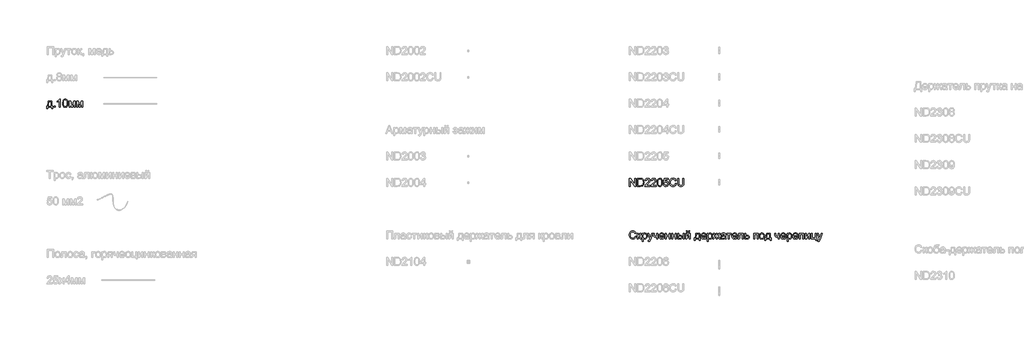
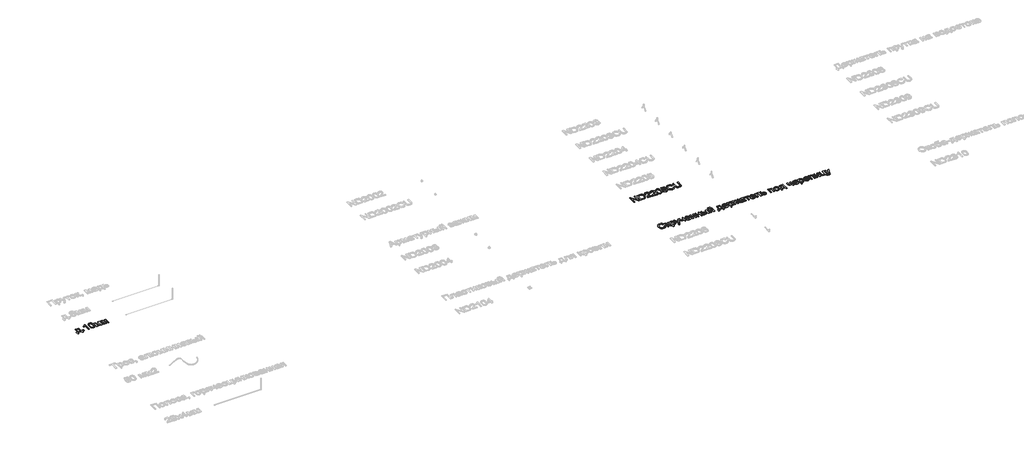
# One storey, part 93 of 124: 3 proxies.
"""IFC4 building model written with IfcOpenShell, lengths in millimetres."""

from ifc_helpers import new_model, si_unit, origin, origin_with_axes, place, context, project, spatial, polyline, outline, extrude, element, save

model = new_model("IFC4")

# Units and contexts
model_context = context("Model", 3, world=origin())
ifc_project = project(units=[si_unit("LENGTHUNIT", "METRE", prefix="MILLI")], contexts=[model_context])

# Site, building, storey
site = spatial("IfcSite", under=ifc_project)
building = spatial("IfcBuilding", under=site)
storey = spatial("IfcBuildingStorey", under=building, Name="Этаж 01", Elevation=0.0)

# Proxies
placement = place(None, origin())
element("IfcBuildingElementProxy", 1, Name="300", ObjectType="300", at=placement, inside=storey, context=model_context, shape_type="SweptSolid", body=[
    extrude(outline(polyline([(1328.0754049, -13298.196295), (1469.3420911, -13298.196295), (1469.3420911, -13481.842987), (1497.5954283, -13481.842987), (1497.5954283, -13580.7296673), (1459.924312, -13580.7296673), (1459.924312, -13519.5141033), (1304.5309572, -13519.5141033), (1304.5309572, -13580.7296673), (1266.8598409, -13580.7296673), (1266.8598409, -13481.842987), (1290.4042886, -13481.842987), (1307.5199984, -13450.9133082), (1319.5037544, -13409.9956333), (1326.3555566, -13359.0899622), (1328.0754049, -13298.196295)]), holes=[polyline([(1361.0376317, -13335.8674113), (1357.9474229, -13381.9906164), (1352.2084638, -13421.6942807), (1343.8207543, -13454.9784043), (1332.7842945, -13481.842987), (1431.6709748, -13481.842987), (1431.6709748, -13335.8674113), (1361.0376317, -13335.8674113)])]), origin_with_axes(), (0.0, 0.0, 1.0), 20.0),
    extrude(outline(polyline([(1549.3932132, -13519.5141033), (1549.3932132, -13481.842987), (1587.0643295, -13481.842987), (1587.0643295, -13519.5141033), (1549.3932132, -13519.5141033)])), origin_with_axes(), (0.0, 0.0, 1.0), 20.0),
    extrude(outline(polyline([(1789.5465797, -13519.5141033), (1751.8754634, -13519.5141033), (1751.8754634, -13284.6582375), (1716.1909098, -13310.0788834), (1676.5332308, -13329.0983826), (1676.5332308, -13293.4874054), (1706.1201402, -13277.3925681), (1731.7523182, -13258.2443103), (1751.9582368, -13237.8820419), (1765.266368, -13218.1451728), (1789.5465797, -13218.1451728), (1789.5465797, -13519.5141033)])), origin_with_axes(), (0.0, 0.0, 1.0), 20.0),
    extrude(outline(polyline([(1879.0154809, -13371.2576592), (1881.7837929, -13323.0191326), (1890.088729, -13284.5478729), (1903.8475156, -13255.2552691), (1922.9773793, -13234.5527098), (1947.616276, -13222.2470571), (1977.9021612, -13218.1451728), (2001.1155151, -13220.573194), (2021.9008478, -13227.8572575), (2039.2832721, -13239.7122548), (2052.2879006, -13255.8530773), (2062.1103499, -13276.1417694), (2069.9462364, -13300.4403751), (2075.0781902, -13331.2964775), (2076.7888415, -13371.2576592), (2074.0481206, -13419.2202743), (2065.8259581, -13457.5995635), (2052.1499449, -13486.9197585), (2033.0476723, -13507.7050912), (2008.3535934, -13520.0935174), (1977.9021612, -13524.2229928), (1957.1536167, -13522.4295681), (1938.7595169, -13517.0492939), (1922.7198619, -13508.0821703), (1909.0346517, -13495.5281972), (1895.9012645, -13472.8344766), (1886.5202736, -13444.5581467), (1880.8916791, -13410.6992076), (1879.0154809, -13371.2576592)]), holes=[polyline([(1916.6865972, -13371.1840828), (1921.1011811, -13430.4406752), (1926.6194111, -13450.7086739), (1934.344933, -13464.7364742), (1954.0634079, -13481.0980259), (1977.9021612, -13486.5518765), (2001.7409145, -13481.0796318), (2021.4593894, -13464.6628978), (2029.1849113, -13450.6121048), (2034.7031413, -13430.3487047), (2039.1177252, -13371.1840828), (2034.8502941, -13313.2610627), (2029.5160051, -13293.0597426), (2022.0480006, -13278.6985492), (2002.3663139, -13261.5368541), (1977.4607028, -13255.8162891), (1953.8794669, -13260.8562725), (1934.9335442, -13275.9762225), (1926.9505049, -13291.6112072), (1921.2483339, -13312.6908456), (1916.6865972, -13371.1840828)])]), origin_with_axes(), (0.0, 0.0, 1.0), 20.0),
    extrude(outline(polyline([(2119.1688474, -13298.196295), (2183.9896549, -13298.196295), (2233.9480298, -13475.3682638), (2287.8059539, -13298.196295), (2349.9044347, -13298.196295), (2349.9044347, -13519.5141033), (2312.2333184, -13519.5141033), (2312.2333184, -13341.3120648), (2258.0810887, -13519.5141033), (2208.6377486, -13519.5141033), (2156.8399637, -13332.7772025), (2156.8399637, -13519.5141033), (2119.1688474, -13519.5141033), (2119.1688474, -13298.196295)])), origin_with_axes(), (0.0, 0.0, 1.0), 20.0),
    extrude(outline(polyline([(2406.4111092, -13298.196295), (2471.2319167, -13298.196295), (2521.1902917, -13475.3682638), (2575.0482158, -13298.196295), (2637.1466966, -13298.196295), (2637.1466966, -13519.5141033), (2599.4755803, -13519.5141033), (2599.4755803, -13341.3120648), (2545.3233506, -13519.5141033), (2495.8800104, -13519.5141033), (2444.0822255, -13332.7772025), (2444.0822255, -13519.5141033), (2406.4111092, -13519.5141033), (2406.4111092, -13298.196295)])), origin_with_axes(), (0.0, 0.0, 1.0), 20.0),
])
element("IfcBuildingElementProxy", 2, Name="300", ObjectType="300", at=placement, inside=storey, context=model_context, shape_type="SweptSolid", body=[
    extrude(outline(polyline([(23340.1671275, -16519.5141033), (23340.1671275, -16218.1451728), (23380.4869942, -16218.1451728), (23537.9404881, -16456.9005877), (23537.9404881, -16218.1451728), (23575.6116044, -16218.1451728), (23575.6116044, -16519.5141033), (23535.2917378, -16519.5141033), (23377.8382438, -16280.685112), (23377.8382438, -16519.5141033), (23340.1671275, -16519.5141033)])), origin_with_axes(), (0.0, 0.0, 1.0), 20.0),
    extrude(outline(polyline([(23641.536058, -16519.5141033), (23641.536058, -16218.1451728), (23745.4995098, -16218.1451728), (23799.2838575, -16222.4861804), (23823.3065518, -16230.8554957), (23843.5768497, -16244.0440653), (23864.4173648, -16266.9999018), (23879.2614033, -16295.5475446), (23888.1457534, -16329.1351708), (23891.1072035, -16367.2109573), (23889.1022466, -16399.5569817), (23883.087376, -16428.0218511), (23873.9271143, -16452.2560775), (23862.4859843, -16471.9101731), (23849.3158089, -16487.4255962), (23834.968411, -16499.2438053), (23818.4964947, -16508.0085939), (23798.9527637, -16514.3637553), (23750.5027049, -16519.5141033), (23641.536058, -16519.5141033)]), holes=[polyline([(23679.2071743, -16481.842987), (23745.8673918, -16481.842987), (23773.4401473, -16480.4818236), (23794.3542388, -16476.3983334), (23810.1363764, -16469.8316398), (23822.3132704, -16461.020866), (23835.4006724, -16444.7144966), (23845.2323187, -16423.6072671), (23851.3851451, -16397.6072071), (23853.4360872, -16366.6223461), (23849.4169764, -16325.5667154), (23837.359644, -16295.253239), (23819.5449584, -16274.4311181), (23798.2537879, -16261.8495538), (23776.5855384, -16257.3246053), (23744.8373222, -16255.8162891), (23679.2071743, -16255.8162891), (23679.2071743, -16481.842987)])]), origin_with_axes(), (0.0, 0.0, 1.0), 20.0),
    extrude(outline(polyline([(24121.8427909, -16481.842987), (24121.8427909, -16519.5141033), (23924.0694303, -16519.5141033), (23928.1161322, -16493.5416344), (23937.4051526, -16473.2437453), (23950.9983923, -16453.5528615), (23970.661685, -16432.9422727), (23998.1608641, -16409.8852687), (24038.8118246, -16373.7776509), (24063.2024008, -16347.1246003), (24075.397689, -16325.493139), (24079.462785, -16304.4502889), (24075.6276152, -16285.5871396), (24064.1221058, -16269.9061695), (24046.4361789, -16259.3387592), (24024.0597566, -16255.8162891), (24000.5612941, -16259.2559858), (23982.3051501, -16269.5750757), (23970.5237292, -16285.9642186), (23966.4494361, -16307.614074), (23928.7783198, -16302.9051845), (23937.9109903, -16266.4664729), (23946.4573489, -16251.9305355), (23957.6570564, -16239.8502105), (23971.2525954, -16230.3542565), (23986.9864485, -16223.5714322), (24024.869097, -16218.1451728), (24045.0589207, -16219.653489), (24063.0276569, -16224.1784375), (24078.7753056, -16231.7200184), (24092.3018667, -16242.2782317), (24103.1658818, -16255.0713281), (24110.9258927, -16269.3175583), (24115.5818992, -16285.0169225), (24117.1339013, -16302.1694205), (24115.4600383, -16320.1864412), (24110.438449, -16337.8907622), (24101.5265077, -16355.8985859), (24088.1815883, -16374.8261146), (24066.9088119, -16397.4232661), (24034.2132996, -16426.4399585), (23990.8768006, -16462.676335), (23973.8806524, -16481.842987), (24121.8427909, -16481.842987)])), origin_with_axes(), (0.0, 0.0, 1.0), 20.0),
    extrude(outline(polyline([(24352.5783783, -16481.842987), (24352.5783783, -16519.5141033), (24154.8050176, -16519.5141033), (24158.8517196, -16493.5416344), (24168.14074, -16473.2437453), (24181.7339797, -16453.5528615), (24201.3972723, -16432.9422727), (24228.8964515, -16409.8852687), (24269.5474119, -16373.7776509), (24293.9379882, -16347.1246003), (24306.1332764, -16325.493139), (24310.1983724, -16304.4502889), (24306.3632026, -16285.5871396), (24294.8576932, -16269.9061695), (24277.1717663, -16259.3387592), (24254.7953439, -16255.8162891), (24231.2968815, -16259.2559858), (24213.0407375, -16269.5750757), (24201.2593166, -16285.9642186), (24197.1850235, -16307.614074), (24159.5139072, -16302.9051845), (24168.6465777, -16266.4664729), (24177.1929363, -16251.9305355), (24188.3926438, -16239.8502105), (24201.9881828, -16230.3542565), (24217.7220359, -16223.5714322), (24255.6046843, -16218.1451728), (24275.7945081, -16219.653489), (24293.7632443, -16224.1784375), (24309.5108929, -16231.7200184), (24323.037454, -16242.2782317), (24333.9014692, -16255.0713281), (24341.66148, -16269.3175583), (24346.3174865, -16285.0169225), (24347.8694887, -16302.1694205), (24346.1956256, -16320.1864412), (24341.1740364, -16337.8907622), (24332.2620951, -16355.8985859), (24318.9171757, -16374.8261146), (24297.6443993, -16397.4232661), (24264.948887, -16426.4399585), (24221.612388, -16462.676335), (24204.6162398, -16481.842987), (24352.5783783, -16481.842987)])), origin_with_axes(), (0.0, 0.0, 1.0), 20.0),
    extrude(outline(polyline([(24390.2494946, -16371.2576592), (24393.0178066, -16323.0191326), (24401.3227426, -16284.5478729), (24415.0815292, -16255.2552691), (24434.211393, -16234.5527098), (24458.8502896, -16222.2470571), (24489.1361749, -16218.1451728), (24512.3495288, -16220.573194), (24533.1348615, -16227.8572575), (24550.5172858, -16239.7122548), (24563.5219143, -16255.8530773), (24573.3443636, -16276.1417694), (24581.1802501, -16300.4403751), (24586.3122039, -16331.2964775), (24588.0228552, -16371.2576592), (24585.2821343, -16419.2202743), (24577.0599717, -16457.5995635), (24563.3839585, -16486.9197585), (24544.2816859, -16507.7050912), (24519.587607, -16520.0935174), (24489.1361749, -16524.2229928), (24468.3876303, -16522.4295681), (24449.9935306, -16517.0492939), (24433.9538756, -16508.0821703), (24420.2686654, -16495.5281972), (24407.1352781, -16472.8344766), (24397.7542873, -16444.5581467), (24392.1256927, -16410.6992076), (24390.2494946, -16371.2576592)]), holes=[polyline([(24427.9206109, -16371.1840828), (24432.3351948, -16430.4406752), (24437.8534247, -16450.7086739), (24445.5789466, -16464.7364742), (24465.2974216, -16481.0980259), (24489.1361749, -16486.5518765), (24512.9749282, -16481.0796318), (24532.6934031, -16464.6628978), (24540.418925, -16450.6121048), (24545.9371549, -16430.3487047), (24550.3517389, -16371.1840828), (24546.0843077, -16313.2610627), (24540.7500188, -16293.0597426), (24533.2820143, -16278.6985492), (24513.6003275, -16261.5368541), (24488.6947165, -16255.8162891), (24465.1134806, -16260.8562725), (24446.1675578, -16275.9762225), (24438.1845185, -16291.6112072), (24432.4823476, -16312.6908456), (24427.9206109, -16371.1840828)])]), origin_with_axes(), (0.0, 0.0, 1.0), 20.0),
    extrude(outline(polyline([(24620.9850819, -16439.4629811), (24658.6561982, -16434.7540916), (24665.5723798, -16457.3696372), (24677.6389092, -16473.5656421), (24694.8006043, -16483.3053179), (24717.0022827, -16486.5518765), (24744.0048211, -16482.036125), (24764.2383309, -16468.4888705), (24776.8750774, -16447.4736116), (24781.0873262, -16420.5538466), (24777.1417918, -16395.2067771), (24765.3051886, -16375.8193959), (24745.4855462, -16363.5137432), (24717.5908939, -16359.411859), (24699.3163558, -16361.0489338), (24684.5183025, -16365.9601585), (24663.3650878, -16382.9563067), (24625.6939715, -16378.2474171), (24658.6561982, -16222.8540624), (24804.6317739, -16222.8540624), (24804.6317739, -16260.5251787), (24689.1168274, -16260.5251787), (24673.0035961, -16343.5193568), (24699.914164, -16327.1853962), (24728.1123189, -16321.7407427), (24746.4581342, -16323.4284013), (24763.3094288, -16328.4913773), (24778.6662029, -16336.9296705), (24792.5284563, -16348.7432811), (24804.0040753, -16363.2102406), (24812.200946, -16379.6085805), (24817.1190684, -16397.9383009), (24818.7584425, -16418.1994018), (24812.8539365, -16455.8705181), (24805.473304, -16472.6643312), (24795.1404185, -16488.0969809), (24779.4870396, -16503.9021111), (24761.2216985, -16515.1914898), (24740.3443953, -16521.9651171), (24716.8551299, -16524.2229928), (24679.8553982, -16518.4196543), (24664.1767274, -16511.1654812), (24650.3788534, -16501.0096389), (24638.8986358, -16488.4579651), (24630.1729348, -16474.0162975), (24620.9850819, -16439.4629811)])), origin_with_axes(), (0.0, 0.0, 1.0), 20.0),
    extrude(outline(polyline([(25077.7473671, -16412.3868663), (25115.4184835, -16422.0989509), (25107.9642745, -16445.5261362), (25098.0360592, -16465.99647), (25085.6338374, -16483.5099522), (25070.7576092, -16498.0665829), (25053.743067, -16509.5100123), (25034.9259029, -16517.6838903), (25014.3061171, -16522.5882172), (24991.8837095, -16524.2229928), (24948.1885255, -16519.27498), (24913.4880563, -16504.4309415), (24886.890188, -16480.2059121), (24867.5028069, -16447.1149266), (24855.6662037, -16408.2114056), (24851.7206693, -16366.5487697), (24856.1812385, -16322.6052653), (24869.5629461, -16284.6582375), (24891.1668162, -16253.9124998), (24920.2938732, -16231.5728656), (24954.8379926, -16217.9704289), (24992.6930499, -16213.4362833), (25033.9970009, -16219.3040011), (25051.9657371, -16226.6386484), (25068.1456471, -16236.9071546), (25082.2700164, -16249.8382067), (25094.0721307, -16265.1604918), (25110.7095939, -16302.9787609), (25073.0384776, -16311.9550816), (25059.9786668, -16284.4834936), (25042.13639, -16265.6387384), (25019.2909181, -16254.7402343), (24991.2215219, -16251.1073996), (24958.8663004, -16255.1357074), (24932.2868263, -16267.220631), (24912.1176959, -16286.0929773), (24898.9935057, -16310.4835536), (24891.7922156, -16338.0563091), (24889.3917856, -16366.4751933), (24892.233674, -16401.27683), (24900.7593393, -16431.3695772), (24915.2906781, -16455.6038036), (24936.1495872, -16472.8298781), (24961.1563658, -16483.1213769), (24988.1313131, -16486.5518765), (25019.5760267, -16481.8797752), (25045.7784218, -16467.8634711), (25065.5612761, -16444.6501172), (25077.7473671, -16412.3868663)])), origin_with_axes(), (0.0, 0.0, 1.0), 20.0),
    extrude(outline(polyline([(25364.989629, -16218.1451728), (25402.6607453, -16218.1451728), (25402.6607453, -16392.0062037), (25400.1039654, -16432.7215435), (25392.4336258, -16464.0742866), (25378.1046221, -16488.2625278), (25355.5718499, -16507.484362), (25324.7801269, -16520.0383351), (25285.6742708, -16524.2229928), (25247.4237404, -16520.580961), (25216.8435495, -16509.6548658), (25193.9245012, -16491.8217861), (25178.6573984, -16467.4588009), (25170.0765509, -16434.7816827), (25167.2162684, -16392.0062037), (25167.2162684, -16218.1451728), (25204.8873847, -16218.1451728), (25204.8873847, -16390.6818285), (25206.7451888, -16424.5361692), (25212.318601, -16448.108208), (25222.4169618, -16464.4329715), (25237.8496114, -16476.5454862), (25257.9727566, -16484.0502789), (25282.1426037, -16486.5518765), (25320.4575135, -16481.6038637), (25334.8003128, -16475.4188476), (25345.9333416, -16466.7598252), (25354.2704673, -16454.5829311), (25360.2255571, -16437.8443003), (25364.989629, -16390.6818285), (25364.989629, -16218.1451728)])), origin_with_axes(), (0.0, 0.0, 1.0), 20.0),
])
element("IfcBuildingElementProxy", 3, Name="300", ObjectType="300", at=placement, inside=storey, context=model_context, shape_type="SweptSolid", body=[
    extrude(outline(polyline([(23552.0671567, -18412.3868663), (23589.7382731, -18422.0989509), (23582.2840641, -18445.5261362), (23572.3558488, -18465.99647), (23559.953627, -18483.5099522), (23545.0773988, -18498.0665829), (23528.0628566, -18509.5100123), (23509.2456925, -18517.6838903), (23488.6259067, -18522.5882172), (23466.2034991, -18524.2229928), (23422.5083151, -18519.27498), (23387.8078459, -18504.4309415), (23361.2099777, -18480.2059121), (23341.8225965, -18447.1149266), (23329.9859933, -18408.2114056), (23326.0404589, -18366.5487697), (23330.5010281, -18322.6052653), (23343.8827357, -18284.6582375), (23365.4866058, -18253.9124998), (23394.6136628, -18231.5728656), (23429.1577822, -18217.9704289), (23467.0128395, -18213.4362833), (23508.3167905, -18219.3040011), (23526.2855267, -18226.6386484), (23542.4654367, -18236.9071546), (23556.589806, -18249.8382067), (23568.3919203, -18265.1604918), (23585.0293835, -18302.9787609), (23547.3582672, -18311.9550816), (23534.2984564, -18284.4834936), (23516.4561796, -18265.6387384), (23493.6107077, -18254.7402343), (23465.5413115, -18251.1073996), (23433.18609, -18255.1357074), (23406.6066159, -18267.220631), (23386.4374855, -18286.0929773), (23373.3132953, -18310.4835536), (23366.1120052, -18338.0563091), (23363.7115752, -18366.4751933), (23366.5534636, -18401.27683), (23375.0791289, -18431.3695772), (23389.6104677, -18455.6038036), (23410.4693768, -18472.8298781), (23435.4761554, -18483.1213769), (23462.4511027, -18486.5518765), (23493.8958163, -18481.8797752), (23520.0982114, -18467.8634711), (23539.8810657, -18444.6501172), (23552.0671567, -18412.3868663)])), origin_with_axes(), (0.0, 0.0, 1.0), 20.0),
    extrude(outline(polyline([(23636.8271684, -18298.196295), (23674.4982847, -18298.196295), (23674.4982847, -18392.3740857), (23689.8205698, -18390.6818285), (23699.7349896, -18385.605057), (23708.5089752, -18372.3613052), (23720.4099577, -18346.1681071), (23737.5900469, -18312.1390226), (23752.7467851, -18301.0657745), (23780.3011466, -18298.196295), (23787.5116337, -18298.196295), (23787.5116337, -18336.0881405), (23777.3580906, -18335.8674113), (23758.9639908, -18339.8405368), (23746.0145446, -18364.6357833), (23730.8210182, -18391.4543807), (23709.5206507, -18404.587768), (23721.4584214, -18409.8898672), (23733.2858276, -18419.2478655), (23756.6095461, -18450.131559), (23796.9294127, -18519.5141033), (23754.1079485, -18519.5141033), (23714.5974222, -18451.603087), (23694.7317945, -18422.8715031), (23685.4427741, -18417.6567758), (23674.4982847, -18415.9185334), (23674.4982847, -18519.5141033), (23636.8271684, -18519.5141033), (23636.8271684, -18298.196295)])), origin_with_axes(), (0.0, 0.0, 1.0), 20.0),
    extrude(outline(polyline([(23820.4738604, -18604.2741149), (23820.4738604, -18298.196295), (23858.1449767, -18298.196295), (23858.1449767, -18335.1316473), (23870.4322354, -18316.9122915), (23884.191022, -18303.8984659), (23900.230677, -18296.0901705), (23919.3605407, -18293.4874054), (23944.8363689, -18297.1294372), (23967.1116237, -18308.0555324), (23985.2482061, -18325.6035036), (23998.3080169, -18349.1111631), (24006.1990857, -18376.8678596), (24008.829442, -18407.1629419), (24005.8587949, -18439.3802077), (23996.9468535, -18468.1945649), (23982.3787265, -18492.1436828), (23962.4395224, -18509.7652304), (23939.2169714, -18520.6085522), (23914.798804, -18524.2229928), (23897.4807591, -18521.8041687), (23882.0205182, -18514.5476963), (23868.7859634, -18503.5940099), (23858.1449767, -18490.0835436), (23858.1449767, -18604.2741149), (23820.4738604, -18604.2741149)]), holes=[polyline([(23858.1449767, -18410.6210327), (23862.2192698, -18444.3925998), (23874.4421491, -18468.0106239), (23892.4775639, -18481.9165634), (23913.9894636, -18486.5518765), (23935.8508512, -18481.7510165), (23954.3461185, -18467.3484363), (23966.9552739, -18442.8658896), (23971.1583257, -18407.8251295), (23967.0564414, -18374.2375034), (23954.7507887, -18350.2883855), (23936.742965, -18335.9409877), (23915.534568, -18331.1585217), (23894.2433975, -18336.2444903), (23875.5457951, -18351.5023961), (23862.4951813, -18376.4539924), (23858.1449767, -18410.6210327)])]), origin_with_axes(), (0.0, 0.0, 1.0), 20.0),
    extrude(outline(polyline([(24051.2094478, -18604.2741149), (24046.5005583, -18568.0009502), (24065.630422, -18571.3118882), (24083.509487, -18567.1548216), (24094.4723704, -18555.5665388), (24104.7730663, -18527.8282364), (24107.7161223, -18518.7047629), (24027.6650001, -18298.196295), (24067.3962556, -18298.196295), (24109.8498378, -18421.0688814), (24124.638694, -18470.2179159), (24139.4275502, -18426.8078405), (24183.0583549, -18298.196295), (24222.4953048, -18298.196295), (24145.460815, -18524.811604), (24125.4480344, -18573.9606385), (24115.2025209, -18589.6508056), (24103.5958439, -18600.5217186), (24090.1129688, -18606.867683), (24074.2388607, -18608.9830045), (24051.2094478, -18604.2741149)])), origin_with_axes(), (0.0, 0.0, 1.0), 20.0),
    extrude(outline(polyline([(24239.5650293, -18298.196295), (24277.2361456, -18298.196295), (24277.2361456, -18340.6498772), (24280.2895662, -18380.4547091), (24285.4858994, -18392.0245978), (24294.9680578, -18402.012594), (24308.0646568, -18408.9103814), (24324.1043118, -18411.2096439), (24347.1521188, -18408.3585584), (24376.1228259, -18399.805302), (24376.1228259, -18298.196295), (24413.7939423, -18298.196295), (24413.7939423, -18519.5141033), (24376.1228259, -18519.5141033), (24376.1228259, -18435.931314), (24343.9699396, -18445.6433986), (24314.0243452, -18448.8807602), (24291.2432526, -18445.5054429), (24271.3132455, -18435.379491), (24255.7794283, -18420.3607085), (24246.1869052, -18402.3068996), (24241.2204983, -18381.7606902), (24239.5650293, -18359.2647062), (24239.5650293, -18298.196295)])), origin_with_axes(), (0.0, 0.0, 1.0), 20.0),
    extrude(outline(polyline([(24625.2525131, -18453.5896497), (24662.1878654, -18458.2985393), (24648.8797342, -18486.1288122), (24627.643746, -18506.932539), (24598.9581475, -18519.9003794), (24563.3011851, -18524.2229928), (24539.9268828, -18522.3582909), (24519.1001634, -18516.7641853), (24500.8210267, -18507.440676), (24485.0894729, -18494.387763), (24472.4389308, -18477.9687297), (24463.4028293, -18458.5468596), (24457.9811684, -18436.1221527), (24456.1739481, -18410.6946091), (24457.9995625, -18384.404842), (24463.4764057, -18361.2328748), (24472.6044777, -18341.1787076), (24485.3837785, -18324.2423402), (24501.0739456, -18310.7870562), (24518.9346165, -18301.1761391), (24538.9657911, -18295.4095888), (24561.1674695, -18293.4874054), (24582.6540773, -18295.4049903), (24602.0851444, -18301.157745), (24619.4606709, -18310.7456695), (24634.7806568, -18324.1687638), (24647.2863453, -18341.068343), (24656.21898, -18361.085722), (24661.5785608, -18384.220901), (24663.3650878, -18410.4738799), (24663.1443586, -18420.627423), (24493.8450644, -18420.627423), (24500.3657728, -18448.8255779), (24515.5133139, -18469.5557283), (24537.3747015, -18482.3028394), (24564.0369491, -18486.5518765), (24584.0865178, -18484.5837078), (24600.9723014, -18478.6792018), (24614.6942998, -18468.4704764), (24625.2525131, -18453.5896497)]), holes=[polyline([(24493.8450644, -18382.9563067), (24625.6939715, -18382.9563067), (24620.5988058, -18363.0538907), (24610.6108097, -18348.8168575), (24588.6482546, -18335.5731057), (24561.0203167, -18331.1585217), (24535.627262, -18334.6809918), (24514.6303971, -18345.2484021), (24500.034679, -18361.7203185), (24493.8450644, -18382.9563067)])]), origin_with_axes(), (0.0, 0.0, 1.0), 20.0),
    extrude(outline(polyline([(24701.0362041, -18298.196295), (24738.7073204, -18298.196295), (24738.7073204, -18382.9563067), (24837.5940007, -18382.9563067), (24837.5940007, -18298.196295), (24875.265117, -18298.196295), (24875.265117, -18519.5141033), (24837.5940007, -18519.5141033), (24837.5940007, -18420.627423), (24738.7073204, -18420.627423), (24738.7073204, -18519.5141033), (24701.0362041, -18519.5141033), (24701.0362041, -18298.196295)])), origin_with_axes(), (0.0, 0.0, 1.0), 20.0),
    extrude(outline(polyline([(24931.7717915, -18298.196295), (24969.4429078, -18298.196295), (24969.4429078, -18382.9563067), (25068.3295881, -18382.9563067), (25068.3295881, -18298.196295), (25106.0007044, -18298.196295), (25106.0007044, -18519.5141033), (25068.3295881, -18519.5141033), (25068.3295881, -18420.627423), (24969.4429078, -18420.627423), (24969.4429078, -18519.5141033), (24931.7717915, -18519.5141033), (24931.7717915, -18298.196295)])), origin_with_axes(), (0.0, 0.0, 1.0), 20.0),
    extrude(outline(polyline([(25369.6985185, -18298.196295), (25407.3696348, -18298.196295), (25407.3696348, -18519.5141033), (25369.6985185, -18519.5141033), (25369.6985185, -18298.196295)])), origin_with_axes(), (0.0, 0.0, 1.0), 20.0),
    extrude(outline(polyline([(25162.5073788, -18298.196295), (25200.1784951, -18298.196295), (25200.1784951, -18378.2474171), (25246.7523557, -18378.2474171), (25287.0078431, -18382.9655037), (25303.2245413, -18388.8631119), (25316.8338758, -18397.1197635), (25327.601322, -18407.4503497), (25335.2923549, -18419.5697622), (25339.9069747, -18433.4780009), (25341.4451813, -18449.1750658), (25336.2856363, -18476.131619), (25320.8070014, -18498.8759233), (25308.9451063, -18507.9051271), (25293.997601, -18514.3545583), (25254.8457596, -18519.5141033), (25162.5073788, -18519.5141033), (25162.5073788, -18298.196295)]), holes=[polyline([(25200.1784951, -18481.842987), (25238.879681, -18481.842987), (25268.8804577, -18479.8656212), (25288.838056, -18473.9335241), (25300.0400627, -18463.8075721), (25303.774065, -18449.2486422), (25301.005753, -18436.9429894), (25292.7008169, -18426.0720765), (25274.9413136, -18418.4569192), (25243.8092998, -18415.9185334), (25200.1784951, -18415.9185334), (25200.1784951, -18481.842987)])]), origin_with_axes(), (0.0, 0.0, 1.0), 20.0),
    extrude(outline(polyline([(25463.8763093, -18298.196295), (25501.5474256, -18298.196295), (25501.5474256, -18466.9805543), (25594.1065356, -18298.196295), (25642.8141117, -18298.196295), (25642.8141117, -18519.5141033), (25605.1429954, -18519.5141033), (25605.1429954, -18351.7599135), (25513.1724966, -18519.5141033), (25463.8763093, -18519.5141033), (25463.8763093, -18298.196295)])), origin_with_axes(), (0.0, 0.0, 1.0), 20.0),
    extrude(outline(polyline([(25586.3074373, -18218.1451728), (25614.5607745, -18218.1451728), (25608.4815245, -18242.2690346), (25596.2770393, -18260.0469321), (25578.4991419, -18271.0006185), (25555.6996553, -18274.6518473), (25530.9595911, -18271.0282096), (25511.7745451, -18260.1572967), (25498.6595519, -18242.4069904), (25492.1296465, -18218.1451728), (25520.3829837, -18218.1451728), (25524.3561093, -18230.5519931), (25530.9779852, -18239.3719639), (25540.2853997, -18244.6418735), (25552.3151409, -18246.39851), (25565.8899865, -18244.6970558), (25575.7124358, -18239.5926931), (25582.3343117, -18230.8279046), (25586.3074373, -18218.1451728)])), origin_with_axes(), (0.0, 0.0, 1.0), 20.0),
    extrude(outline(polyline([(25850.0052514, -18298.196295), (25991.2719376, -18298.196295), (25991.2719376, -18481.842987), (26019.5252748, -18481.842987), (26019.5252748, -18580.7296673), (25981.8541585, -18580.7296673), (25981.8541585, -18519.5141033), (25826.4608037, -18519.5141033), (25826.4608037, -18580.7296673), (25788.7896874, -18580.7296673), (25788.7896874, -18481.842987), (25812.3341351, -18481.842987), (25829.4498449, -18450.9133082), (25841.4336009, -18409.9956333), (25848.2854031, -18359.0899622), (25850.0052514, -18298.196295)]), holes=[polyline([(25882.9674782, -18335.8674113), (25879.8772694, -18381.9906164), (25874.1383103, -18421.6942807), (25865.7506008, -18454.9784043), (25854.714141, -18481.842987), (25953.6008213, -18481.842987), (25953.6008213, -18335.8674113), (25882.9674782, -18335.8674113)])]), origin_with_axes(), (0.0, 0.0, 1.0), 20.0),
    extrude(outline(polyline([(26216.857177, -18453.5896497), (26253.7925293, -18458.2985393), (26240.4843982, -18486.1288122), (26219.24841, -18506.932539), (26190.5628114, -18519.9003794), (26154.905849, -18524.2229928), (26131.5315468, -18522.3582909), (26110.7048273, -18516.7641853), (26092.4256907, -18507.440676), (26076.6941369, -18494.387763), (26064.0435947, -18477.9687297), (26055.0074932, -18458.5468596), (26049.5858323, -18436.1221527), (26047.778612, -18410.6946091), (26049.6042264, -18384.404842), (26055.0810696, -18361.2328748), (26064.2091416, -18341.1787076), (26076.9884424, -18324.2423402), (26092.6786095, -18310.7870562), (26110.5392804, -18301.1761391), (26130.570455, -18295.4095888), (26152.7721335, -18293.4874054), (26174.2587412, -18295.4049903), (26193.6898084, -18301.157745), (26211.0653349, -18310.7456695), (26226.3853207, -18324.1687638), (26238.8910093, -18341.068343), (26247.823644, -18361.085722), (26253.1832248, -18384.220901), (26254.9697517, -18410.4738799), (26254.7490225, -18420.627423), (26085.4497283, -18420.627423), (26091.9704367, -18448.8255779), (26107.1179779, -18469.5557283), (26128.9793654, -18482.3028394), (26155.641613, -18486.5518765), (26175.6911818, -18484.5837078), (26192.5769653, -18478.6792018), (26206.2989638, -18468.4704764), (26216.857177, -18453.5896497)]), holes=[polyline([(26085.4497283, -18382.9563067), (26217.2986354, -18382.9563067), (26212.2034698, -18363.0538907), (26202.2154736, -18348.8168575), (26180.2529185, -18335.5731057), (26152.6249807, -18331.1585217), (26127.2319259, -18334.6809918), (26106.2350611, -18345.2484021), (26091.6393429, -18361.7203185), (26085.4497283, -18382.9563067)])]), origin_with_axes(), (0.0, 0.0, 1.0), 20.0),
    extrude(outline(polyline([(26292.640868, -18604.2741149), (26292.640868, -18298.196295), (26330.3119843, -18298.196295), (26330.3119843, -18335.1316473), (26342.599243, -18316.9122915), (26356.3580296, -18303.8984659), (26372.3976846, -18296.0901705), (26391.5275483, -18293.4874054), (26417.0033765, -18297.1294372), (26439.2786313, -18308.0555324), (26457.4152137, -18325.6035036), (26470.4750245, -18349.1111631), (26478.3660933, -18376.8678596), (26480.9964495, -18407.1629419), (26478.0258024, -18439.3802077), (26469.1138611, -18468.1945649), (26454.5457341, -18492.1436828), (26434.60653, -18509.7652304), (26411.383979, -18520.6085522), (26386.9658116, -18524.2229928), (26369.6477667, -18521.8041687), (26354.1875258, -18514.5476963), (26340.952971, -18503.5940099), (26330.3119843, -18490.0835436), (26330.3119843, -18604.2741149), (26292.640868, -18604.2741149)]), holes=[polyline([(26330.3119843, -18410.6210327), (26334.3862774, -18444.3925998), (26346.6091567, -18468.0106239), (26364.6445715, -18481.9165634), (26386.1564712, -18486.5518765), (26408.0178588, -18481.7510165), (26426.5131261, -18467.3484363), (26439.1222814, -18442.8658896), (26443.3253332, -18407.8251295), (26439.223449, -18374.2375034), (26426.9177963, -18350.2883855), (26408.9099726, -18335.9409877), (26387.7015756, -18331.1585217), (26366.4104051, -18336.2444903), (26347.7128027, -18351.5023961), (26334.6621889, -18376.4539924), (26330.3119843, -18410.6210327)])]), origin_with_axes(), (0.0, 0.0, 1.0), 20.0),
    extrude(outline(polyline([(26659.934252, -18298.196295), (26659.934252, -18392.3740857), (26673.2239891, -18390.4335082), (26681.8968071, -18384.6117756), (26702.6821398, -18344.3286972), (26715.6499802, -18319.220751), (26727.4773863, -18305.7010877), (26741.8431782, -18300.0724931), (26762.7204815, -18298.196295), (26777.6564905, -18298.196295), (26777.6564905, -18336.0881405), (26767.2822182, -18335.8674113), (26747.8580489, -18339.7669604), (26734.3935678, -18364.1943249), (26718.758583, -18390.9761341), (26696.4281459, -18404.587768), (26708.8211706, -18409.8898672), (26721.0578455, -18419.2478655), (26745.0621457, -18450.131559), (26787.0742695, -18519.5141033), (26743.8849233, -18519.5141033), (26702.534987, -18451.0880522), (26691.2318127, -18433.1262137), (26681.4553487, -18422.6507739), (26671.5685201, -18417.6015935), (26659.934252, -18415.9185334), (26659.934252, -18519.5141033), (26622.2631357, -18519.5141033), (26622.2631357, -18415.9185334), (26610.7208381, -18417.5648053), (26600.8156154, -18422.5036211), (26590.965575, -18432.9054845), (26579.5888243, -18450.9408994), (26538.238888, -18519.5141033), (26495.1231182, -18519.5141033), (26536.9880892, -18450.131559), (26561.1763304, -18419.2478655), (26573.4773846, -18409.8898672), (26585.9163946, -18404.587768), (26571.5322086, -18397.3772809), (26562.2247941, -18389.5781826), (26541.917708, -18350.9505731), (26531.9848941, -18338.221856), (26515.7245099, -18335.6466821), (26504.5408972, -18335.8674113), (26504.5408972, -18298.196295), (26510.20628, -18298.196295), (26543.2420831, -18300.5507397), (26560.3853841, -18310.55713), (26579.5888243, -18344.3286972), (26600.1534278, -18384.3542582), (26608.8262458, -18390.3691289), (26622.2631357, -18392.3740857), (26622.2631357, -18298.196295), (26659.934252, -18298.196295)])), origin_with_axes(), (0.0, 0.0, 1.0), 20.0),
    extrude(outline(polyline([(26947.1765138, -18491.260766), (26929.1778872, -18506.6934157), (26910.6458317, -18516.7917765), (26891.157283, -18522.3651887), (26870.2891768, -18524.2229928), (26838.8076751, -18519.7532266), (26815.5851242, -18506.3439278), (26801.2653175, -18485.9816594), (26796.4920486, -18460.652984), (26798.2946704, -18445.0363933), (26803.7025357, -18430.8545424), (26812.04426, -18418.7144366), (26822.6484585, -18409.2230811), (26849.0255975, -18396.8622461), (26881.6199423, -18391.1968633), (26920.1371872, -18385.237175), (26946.9557846, -18378.2474171), (26947.1765138, -18369.8597076), (26944.5829458, -18353.0475004), (26936.8022416, -18342.0478288), (26919.4014232, -18333.8808485), (26895.1579997, -18331.1585217), (26872.717198, -18332.9703406), (26857.045425, -18338.405797), (26846.3584531, -18348.4581726), (26838.8720545, -18364.1207485), (26801.2009382, -18359.411859), (26807.7400406, -18338.8104672), (26817.4981105, -18322.6236594), (26831.3856559, -18310.2444303), (26850.3131845, -18301.0657745), (26873.4621591, -18295.3819977), (26900.0140421, -18293.4874054), (26925.4806732, -18295.1612685), (26945.6681977, -18300.1828577), (26960.8893152, -18307.7336357), (26971.4567255, -18316.9950649), (26978.4648775, -18328.445392), (26983.0082202, -18342.5628636), (26984.8476301, -18375.5250903), (26984.8476301, -18422.3932565), (26986.7606165, -18487.8394635), (26994.2654092, -18519.5141033), (26956.5942929, -18519.5141033), (26947.1765138, -18491.260766)]), holes=[polyline([(26947.1765138, -18415.9185334), (26886.4024082, -18427.4700281), (26853.9920045, -18433.5768692), (26839.3135129, -18443.5096831), (26834.1631649, -18458.0042337), (26836.9682651, -18469.2062404), (26845.3835658, -18478.3848962), (26859.2251258, -18484.5101314), (26878.3090043, -18486.5518765), (26898.5425141, -18484.2985993), (26916.421579, -18477.5387676), (26930.9161297, -18467.5783626), (26940.9960963, -18455.7233653), (26945.4658626, -18443.5096831), (26946.9557846, -18426.5871113), (26947.1765138, -18415.9185334)])]), origin_with_axes(), (0.0, 0.0, 1.0), 20.0),
    extrude(outline(polyline([(27017.8098569, -18298.196295), (27196.7476594, -18298.196295), (27196.7476594, -18335.8674113), (27126.1143163, -18335.8674113), (27126.1143163, -18519.5141033), (27088.4432, -18519.5141033), (27088.4432, -18335.8674113), (27017.8098569, -18335.8674113), (27017.8098569, -18298.196295)])), origin_with_axes(), (0.0, 0.0, 1.0), 20.0),
    extrude(outline(polyline([(27384.6617825, -18453.5896497), (27421.5971348, -18458.2985393), (27408.2890036, -18486.1288122), (27387.0530155, -18506.932539), (27358.3674169, -18519.9003794), (27322.7104545, -18524.2229928), (27299.3361522, -18522.3582909), (27278.5094328, -18516.7641853), (27260.2302962, -18507.440676), (27244.4987423, -18494.387763), (27231.8482002, -18477.9687297), (27222.8120987, -18458.5468596), (27217.3904378, -18436.1221527), (27215.5832175, -18410.6946091), (27217.4088319, -18384.404842), (27222.8856751, -18361.2328748), (27232.0137471, -18341.1787076), (27244.7930479, -18324.2423402), (27260.483215, -18310.7870562), (27278.3438859, -18301.1761391), (27298.3750605, -18295.4095888), (27320.5767389, -18293.4874054), (27342.0633467, -18295.4049903), (27361.4944139, -18301.157745), (27378.8699403, -18310.7456695), (27394.1899262, -18324.1687638), (27406.6956148, -18341.068343), (27415.6282494, -18361.085722), (27420.9878303, -18384.220901), (27422.7743572, -18410.4738799), (27422.553628, -18420.627423), (27253.2543338, -18420.627423), (27259.7750422, -18448.8255779), (27274.9225833, -18469.5557283), (27296.7839709, -18482.3028394), (27323.4462185, -18486.5518765), (27343.4957872, -18484.5837078), (27360.3815708, -18478.6792018), (27374.1035692, -18468.4704764), (27384.6617825, -18453.5896497)]), holes=[polyline([(27253.2543338, -18382.9563067), (27385.1032409, -18382.9563067), (27380.0080753, -18363.0538907), (27370.0200791, -18348.8168575), (27348.057524, -18335.5731057), (27320.4295861, -18331.1585217), (27295.0365314, -18334.6809918), (27274.0396666, -18345.2484021), (27259.4439484, -18361.7203185), (27253.2543338, -18382.9563067)])]), origin_with_axes(), (0.0, 0.0, 1.0), 20.0),
    extrude(outline(polyline([(27479.2810317, -18298.196295), (27648.801055, -18298.196295), (27648.801055, -18519.2933741), (27611.1299387, -18519.2933741), (27611.1299387, -18335.8674113), (27516.952148, -18335.8674113), (27516.952148, -18441.4495439), (27514.4137622, -18490.15712), (27509.6588874, -18501.1843829), (27500.4710346, -18510.7217236), (27486.528307, -18517.3160083), (27467.5088078, -18519.5141033), (27436.9010258, -18517.6011169), (27436.9010258, -18481.842987), (27453.7500212, -18481.842987), (27470.7829576, -18479.5253304), (27477.5887745, -18472.1676905), (27479.2810317, -18439.3158283), (27479.2810317, -18298.196295)])), origin_with_axes(), (0.0, 0.0, 1.0), 20.0),
    extrude(outline(polyline([(27705.3077295, -18298.196295), (27742.9788458, -18298.196295), (27742.9788458, -18378.2474171), (27786.3889212, -18378.2474171), (27824.0232493, -18382.9655037), (27839.1707905, -18388.8631119), (27851.8719164, -18397.1197635), (27861.9150948, -18407.4503497), (27869.0887938, -18419.5697622), (27874.8277529, -18449.1750658), (27869.9441194, -18476.131619), (27855.2932189, -18498.8759233), (27844.0613218, -18507.9051271), (27829.9001642, -18514.3545583), (27792.790068, -18519.5141033), (27705.3077295, -18519.5141033), (27705.3077295, -18298.196295)]), holes=[polyline([(27742.9788458, -18481.842987), (27778.1483645, -18481.842987), (27805.4360115, -18479.8656212), (27823.5817909, -18473.9335241), (27833.7629252, -18463.8075721), (27837.1566366, -18449.2486422), (27834.645842, -18436.9429894), (27827.1134581, -18426.0720765), (27810.9726356, -18418.4569192), (27782.6365249, -18415.9185334), (27742.9788458, -18415.9185334), (27742.9788458, -18481.842987)])]), origin_with_axes(), (0.0, 0.0, 1.0), 20.0),
    extrude(outline(polyline([(28039.6388867, -18298.196295), (28209.1589101, -18298.196295), (28209.1589101, -18519.5141033), (28171.4877938, -18519.5141033), (28171.4877938, -18335.8674113), (28077.310003, -18335.8674113), (28077.310003, -18519.5141033), (28039.6388867, -18519.5141033), (28039.6388867, -18298.196295)])), origin_with_axes(), (0.0, 0.0, 1.0), 20.0),
    extrude(outline(polyline([(28256.2478055, -18408.8551991), (28258.284952, -18380.1925932), (28264.3963917, -18355.4939157), (28274.5821244, -18334.7591668), (28288.8421502, -18317.9883463), (28303.1987451, -18307.2691847), (28319.0452621, -18299.6126406), (28336.3817011, -18295.0187142), (28355.2080622, -18293.4874054), (28375.9910956, -18295.3521073), (28394.7829678, -18300.9462129), (28411.5836787, -18310.2697222), (28426.3932282, -18323.3226352), (28438.480451, -18339.6634936), (28447.1141816, -18358.8508389), (28452.29442, -18380.8846712), (28454.0211661, -18405.7649904), (28450.9677455, -18443.8223828), (28441.8074838, -18472.7930899), (28426.8070955, -18494.4889305), (28406.2332949, -18510.7217236), (28381.7967334, -18520.8476755), (28355.2080622, -18524.2229928), (28334.1215261, -18522.3651887), (28315.15491, -18516.7917765), (28298.3082138, -18507.5027561), (28283.5814377, -18494.4981276), (28271.6229736, -18477.9986201), (28263.0812135, -18458.2249629), (28257.9561575, -18435.1771559), (28256.2478055, -18408.8551991)]), holes=[polyline([(28293.9189218, -18408.7816227), (28298.2783234, -18442.8750866), (28311.3565284, -18467.1644953), (28331.0382151, -18481.7050312), (28355.2080622, -18486.5518765), (28379.2675447, -18481.6774401), (28398.9124432, -18467.0541307), (28411.9906481, -18442.4428253), (28416.3500498, -18407.6044003), (28411.963057, -18374.5042178), (28398.8020786, -18350.5459029), (28379.1295889, -18336.005367), (28355.2080622, -18331.1585217), (28331.0382151, -18335.9869729), (28311.3565284, -18350.4723265), (28298.2783234, -18374.7065529), (28293.9189218, -18408.7816227)])]), origin_with_axes(), (0.0, 0.0, 1.0), 20.0),
    extrude(outline(polyline([(28529.3633987, -18298.196295), (28670.6300848, -18298.196295), (28670.6300848, -18481.842987), (28698.8834221, -18481.842987), (28698.8834221, -18580.7296673), (28661.2123058, -18580.7296673), (28661.2123058, -18519.5141033), (28505.818951, -18519.5141033), (28505.818951, -18580.7296673), (28468.1478347, -18580.7296673), (28468.1478347, -18481.842987), (28491.6922824, -18481.842987), (28508.8079922, -18450.9133082), (28520.7917482, -18409.9956333), (28527.6435504, -18359.0899622), (28529.3633987, -18298.196295)]), holes=[polyline([(28562.3256255, -18335.8674113), (28559.2354167, -18381.9906164), (28553.4964576, -18421.6942807), (28545.1087481, -18454.9784043), (28534.0722882, -18481.842987), (28632.9589685, -18481.842987), (28632.9589685, -18335.8674113), (28562.3256255, -18335.8674113)])]), origin_with_axes(), (0.0, 0.0, 1.0), 20.0),
    extrude(outline(polyline([(28844.8589978, -18298.196295), (28882.5301141, -18298.196295), (28882.5301141, -18340.6498772), (28885.5835346, -18380.4547091), (28890.7798678, -18392.0245978), (28900.2620262, -18402.012594), (28913.3586253, -18408.9103814), (28929.3982802, -18411.2096439), (28952.4460872, -18408.3585584), (28981.4167944, -18399.805302), (28981.4167944, -18298.196295), (29019.0879107, -18298.196295), (29019.0879107, -18519.5141033), (28981.4167944, -18519.5141033), (28981.4167944, -18435.931314), (28949.263908, -18445.6433986), (28919.3183136, -18448.8807602), (28896.537221, -18445.5054429), (28876.6072139, -18435.379491), (28861.0733967, -18420.3607085), (28851.4808737, -18402.3068996), (28846.5144667, -18381.7606902), (28844.8589978, -18359.2647062), (28844.8589978, -18298.196295)])), origin_with_axes(), (0.0, 0.0, 1.0), 20.0),
    extrude(outline(polyline([(29230.5464815, -18453.5896497), (29267.4818338, -18458.2985393), (29254.1737026, -18486.1288122), (29232.9377145, -18506.932539), (29204.2521159, -18519.9003794), (29168.5951535, -18524.2229928), (29145.2208512, -18522.3582909), (29124.3941318, -18516.7641853), (29106.1149952, -18507.440676), (29090.3834413, -18494.387763), (29077.7328992, -18477.9687297), (29068.6967977, -18458.5468596), (29063.2751368, -18436.1221527), (29061.4679165, -18410.6946091), (29063.2935309, -18384.404842), (29068.7703741, -18361.2328748), (29077.8984461, -18341.1787076), (29090.6777469, -18324.2423402), (29106.367914, -18310.7870562), (29124.2285849, -18301.1761391), (29144.2597595, -18295.4095888), (29166.4614379, -18293.4874054), (29187.9480457, -18295.4049903), (29207.3791129, -18301.157745), (29224.7546393, -18310.7456695), (29240.0746252, -18324.1687638), (29252.5803137, -18341.068343), (29261.5129484, -18361.085722), (29266.8725293, -18384.220901), (29268.6590562, -18410.4738799), (29268.438327, -18420.627423), (29099.1390328, -18420.627423), (29105.6597412, -18448.8255779), (29120.8072823, -18469.5557283), (29142.6686699, -18482.3028394), (29169.3309175, -18486.5518765), (29189.3804862, -18484.5837078), (29206.2662698, -18478.6792018), (29219.9882682, -18468.4704764), (29230.5464815, -18453.5896497)]), holes=[polyline([(29099.1390328, -18382.9563067), (29230.9879399, -18382.9563067), (29225.8927743, -18363.0538907), (29215.9047781, -18348.8168575), (29193.942223, -18335.5731057), (29166.3142851, -18331.1585217), (29140.9212304, -18334.6809918), (29119.9243656, -18345.2484021), (29105.3286474, -18361.7203185), (29099.1390328, -18382.9563067)])]), origin_with_axes(), (0.0, 0.0, 1.0), 20.0),
    extrude(outline(polyline([(29306.3301725, -18604.2741149), (29306.3301725, -18298.196295), (29344.0012888, -18298.196295), (29344.0012888, -18335.1316473), (29356.2885475, -18316.9122915), (29370.0473341, -18303.8984659), (29386.0869891, -18296.0901705), (29405.2168528, -18293.4874054), (29430.692681, -18297.1294372), (29452.9679358, -18308.0555324), (29471.1045181, -18325.6035036), (29484.164329, -18349.1111631), (29492.0553978, -18376.8678596), (29494.685754, -18407.1629419), (29491.7151069, -18439.3802077), (29482.8031656, -18468.1945649), (29468.2350386, -18492.1436828), (29448.2958344, -18509.7652304), (29425.0732835, -18520.6085522), (29400.6551161, -18524.2229928), (29383.3370711, -18521.8041687), (29367.8768303, -18514.5476963), (29354.6422755, -18503.5940099), (29344.0012888, -18490.0835436), (29344.0012888, -18604.2741149), (29306.3301725, -18604.2741149)]), holes=[polyline([(29344.0012888, -18410.6210327), (29348.0755819, -18444.3925998), (29360.2984612, -18468.0106239), (29378.333876, -18481.9165634), (29399.8457757, -18486.5518765), (29421.7071632, -18481.7510165), (29440.2024306, -18467.3484363), (29452.8115859, -18442.8658896), (29457.0146377, -18407.8251295), (29452.9127535, -18374.2375034), (29440.6071007, -18350.2883855), (29422.5992771, -18335.9409877), (29401.3908801, -18331.1585217), (29380.0997096, -18336.2444903), (29361.4021072, -18351.5023961), (29348.3514934, -18376.4539924), (29344.0012888, -18410.6210327)])]), origin_with_axes(), (0.0, 0.0, 1.0), 20.0),
    extrude(outline(polyline([(29692.0176563, -18453.5896497), (29728.9530086, -18458.2985393), (29715.6448774, -18486.1288122), (29694.4088892, -18506.932539), (29665.7232906, -18519.9003794), (29630.0663283, -18524.2229928), (29606.692026, -18522.3582909), (29585.8653065, -18516.7641853), (29567.5861699, -18507.440676), (29551.8546161, -18494.387763), (29539.204074, -18477.9687297), (29530.1679725, -18458.5468596), (29524.7463116, -18436.1221527), (29522.9390913, -18410.6946091), (29524.7647057, -18384.404842), (29530.2415489, -18361.2328748), (29539.3696209, -18341.1787076), (29552.1489217, -18324.2423402), (29567.8390888, -18310.7870562), (29585.6997596, -18301.1761391), (29605.7309343, -18295.4095888), (29627.9326127, -18293.4874054), (29649.4192205, -18295.4049903), (29668.8502876, -18301.157745), (29686.2258141, -18310.7456695), (29701.5457999, -18324.1687638), (29714.0514885, -18341.068343), (29722.9841232, -18361.085722), (29728.343704, -18384.220901), (29730.130231, -18410.4738799), (29729.9095018, -18420.627423), (29560.6102076, -18420.627423), (29567.1309159, -18448.8255779), (29582.2784571, -18469.5557283), (29604.1398447, -18482.3028394), (29630.8020923, -18486.5518765), (29650.851661, -18484.5837078), (29667.7374446, -18478.6792018), (29681.459443, -18468.4704764), (29692.0176563, -18453.5896497)]), holes=[polyline([(29560.6102076, -18382.9563067), (29692.4591146, -18382.9563067), (29687.363949, -18363.0538907), (29677.3759528, -18348.8168575), (29655.4133977, -18335.5731057), (29627.7854599, -18331.1585217), (29602.3924052, -18334.6809918), (29581.3955403, -18345.2484021), (29566.7998221, -18361.7203185), (29560.6102076, -18382.9563067)])]), origin_with_axes(), (0.0, 0.0, 1.0), 20.0),
    extrude(outline(polyline([(29767.8013473, -18298.196295), (29937.3213706, -18298.196295), (29937.3213706, -18519.5141033), (29899.6502543, -18519.5141033), (29899.6502543, -18335.8674113), (29805.4724636, -18335.8674113), (29805.4724636, -18519.5141033), (29767.8013473, -18519.5141033), (29767.8013473, -18298.196295)])), origin_with_axes(), (0.0, 0.0, 1.0), 20.0),
    extrude(outline(polyline([(29993.8280451, -18298.196295), (30031.4991614, -18298.196295), (30031.4991614, -18466.9805543), (30124.0582714, -18298.196295), (30172.7658475, -18298.196295), (30172.7658475, -18519.5141033), (30135.0947312, -18519.5141033), (30135.0947312, -18351.7599135), (30043.1242324, -18519.5141033), (29993.8280451, -18519.5141033), (29993.8280451, -18298.196295)])), origin_with_axes(), (0.0, 0.0, 1.0), 20.0),
    extrude(outline(polyline([(30229.272522, -18298.196295), (30266.9436383, -18298.196295), (30266.9436383, -18481.842987), (30375.2480977, -18481.842987), (30375.2480977, -18298.196295), (30412.919214, -18298.196295), (30412.919214, -18481.842987), (30436.4636617, -18481.842987), (30436.4636617, -18580.7296673), (30398.7925454, -18580.7296673), (30398.7925454, -18519.5141033), (30229.272522, -18519.5141033), (30229.272522, -18298.196295)])), origin_with_axes(), (0.0, 0.0, 1.0), 20.0),
    extrude(outline(polyline([(30469.4258885, -18604.2741149), (30464.7169989, -18568.0009502), (30483.8468627, -18571.3118882), (30501.7259276, -18567.1548216), (30512.6888111, -18555.5665388), (30522.989507, -18527.8282364), (30525.9325629, -18518.7047629), (30445.8814408, -18298.196295), (30485.6126962, -18298.196295), (30528.0662785, -18421.0688814), (30542.8551347, -18470.2179159), (30557.6439909, -18426.8078405), (30601.2747955, -18298.196295), (30640.7117454, -18298.196295), (30563.6772556, -18524.811604), (30543.6644751, -18573.9606385), (30533.4189615, -18589.6508056), (30521.8122846, -18600.5217186), (30508.3294094, -18606.867683), (30492.4553014, -18608.9830045), (30469.4258885, -18604.2741149)])), origin_with_axes(), (0.0, 0.0, 1.0), 20.0),
])

save(model, "model.ifc")
